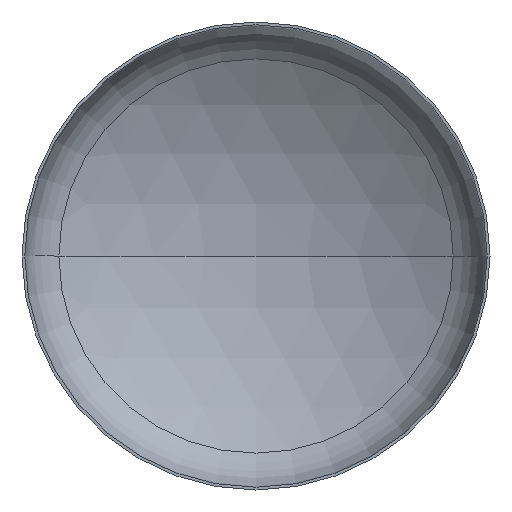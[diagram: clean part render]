
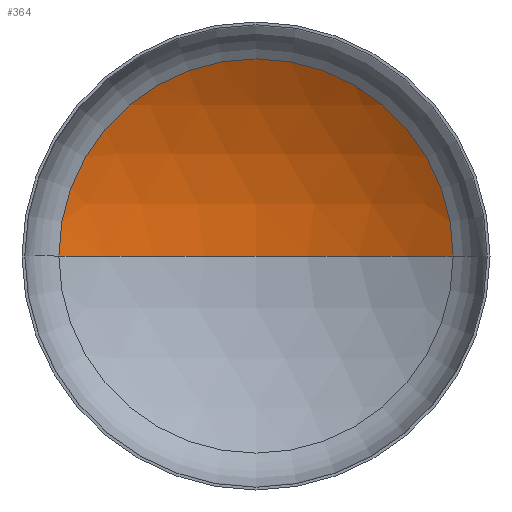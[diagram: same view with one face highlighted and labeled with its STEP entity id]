
A CAD part, front view. The second image highlights one B-rep face of the part: STEP entity #364.
In plain terms, the highlighted spherical face has radius 6400 mm.
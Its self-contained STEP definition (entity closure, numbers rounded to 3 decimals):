
#36 = ORIENTED_EDGE ( 'NONE', *, *, #125, .F. ) ;
#39 = VERTEX_POINT ( 'NONE', #284 ) ;
#43 = VERTEX_POINT ( 'NONE', #97 ) ;
#63 = AXIS2_PLACEMENT_3D ( 'NONE', #91, #78, #71 ) ;
#67 = AXIS2_PLACEMENT_3D ( 'NONE', #207, #208, #191 ) ;
#68 = VERTEX_POINT ( 'NONE', #231 ) ;
#71 = DIRECTION ( 'NONE',  ( 1., 0., 0. ) ) ;
#73 = AXIS2_PLACEMENT_3D ( 'NONE', #292, #225, #219 ) ;
#78 = DIRECTION ( 'NONE',  ( 0., 0., 1. ) ) ;
#91 = CARTESIAN_POINT ( 'NONE',  ( 0., -4245.409, 0. ) ) ;
#97 = CARTESIAN_POINT ( 'NONE',  ( 0., 2154.591, 0. ) ) ;
#116 = EDGE_CURVE ( 'NONE', #68, #39, #303, .T. ) ;
#122 = EDGE_CURVE ( 'NONE', #43, #68, #242, .T. ) ;
#125 = EDGE_CURVE ( 'NONE', #43, #39, #180, .T. ) ;
#135 = EDGE_LOOP ( 'NONE', ( #36, #142, #147 ) ) ;
#142 = ORIENTED_EDGE ( 'NONE', *, *, #122, .T. ) ;
#147 = ORIENTED_EDGE ( 'NONE', *, *, #116, .T. ) ;
#180 = CIRCLE ( 'NONE', #63, 6400. ) ;
#191 = DIRECTION ( 'NONE',  ( -1., 0., 0. ) ) ;
#194 = FACE_OUTER_BOUND ( 'NONE', #135, .T. ) ;
#207 = CARTESIAN_POINT ( 'NONE',  ( 0., -4245.409, 0. ) ) ;
#208 = DIRECTION ( 'NONE',  ( 0., 0., -1. ) ) ;
#219 = DIRECTION ( 'NONE',  ( 1., 0., 0. ) ) ;
#225 = DIRECTION ( 'NONE',  ( 0., -1., 0. ) ) ;
#231 = CARTESIAN_POINT ( 'NONE',  ( 3369.594, 1195.716, 0. ) ) ;
#238 = DIRECTION ( 'NONE',  ( 0., 0., -1. ) ) ;
#242 = CIRCLE ( 'NONE', #67, 6400. ) ;
#284 = CARTESIAN_POINT ( 'NONE',  ( -3369.594, 1195.716, 0. ) ) ;
#292 = CARTESIAN_POINT ( 'NONE',  ( 0., 1195.716, 0. ) ) ;
#303 = CIRCLE ( 'NONE', #73, 3369.594 ) ;
#325 = CARTESIAN_POINT ( 'NONE',  ( 0., -4245.409, 0. ) ) ;
#364 = ADVANCED_FACE ( 'NONE', ( #194 ), #373, .F. ) ;
#373 = SPHERICAL_SURFACE ( 'NONE', #374, 6400. ) ;
#374 = AXIS2_PLACEMENT_3D ( 'NONE', #325, #238, #396 ) ;
#396 = DIRECTION ( 'NONE',  ( -1., 0., 0. ) ) ;
